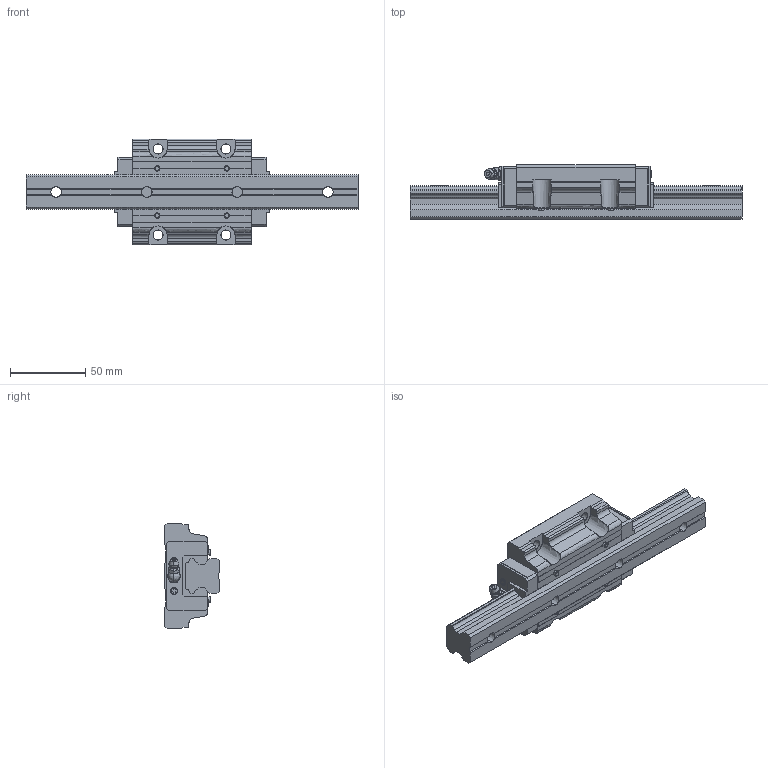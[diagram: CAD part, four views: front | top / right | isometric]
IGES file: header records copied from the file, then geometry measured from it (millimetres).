
Start section: SolidWorks IGES file using analytic representation for surfaces
Global section: file name: D:\Qsync\EOS Design B.V\Projecten\LM Systems\Models HSV\FINISHED\HSR25LCSSC.IGS; native system: SolidWorks 2016; preprocessor: SolidWorks 2016; author: EOS; date: 160329.133255; units: millimetre
Bounding box: 220 x 36 x 70 mm (x, y, z)
Surface area: 50143.4 mm2 (no closed solid volume)
Topology: 0 solids, 0 shells, 363 faces, 4024 edges, 4016 vertices
Faces by surface type: bspline 249, revolution 114
